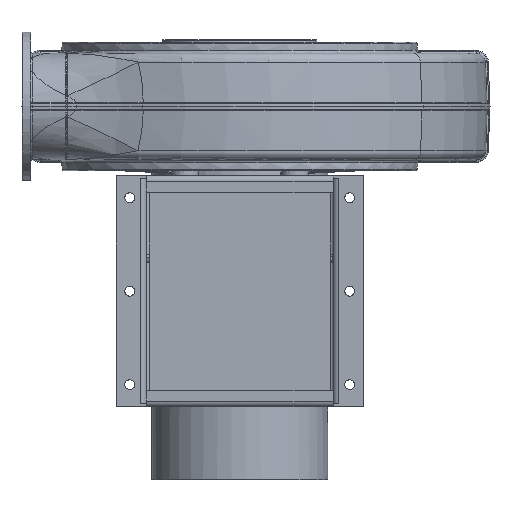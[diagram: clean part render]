
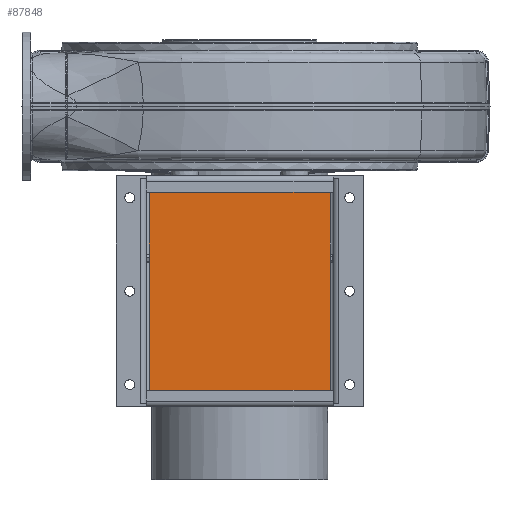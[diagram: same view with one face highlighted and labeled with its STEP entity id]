
A CAD part, front view. The second image highlights one B-rep face of the part: STEP entity #87848.
In plain terms, the highlighted planar face has unit normal (0, -1, 0).
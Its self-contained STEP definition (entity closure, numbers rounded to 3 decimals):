
#3362=PLANE('',#92284);
#13500=FACE_OUTER_BOUND('',#18978,.T.);
#18978=EDGE_LOOP('',(#81717,#81718,#81719,#81720,#81721,#81722,#81723,#81724,
#81725,#81726,#81727,#81728));
#28294=LINE('',#154044,#37658);
#28308=LINE('',#154080,#37672);
#28321=LINE('',#154117,#37685);
#28348=LINE('',#154179,#37712);
#28349=LINE('',#154181,#37713);
#28361=LINE('',#154212,#37725);
#28362=LINE('',#154214,#37726);
#28363=LINE('',#154216,#37727);
#28364=LINE('',#154218,#37728);
#28365=LINE('',#154220,#37729);
#28366=LINE('',#154222,#37730);
#28367=LINE('',#154223,#37731);
#37658=VECTOR('',#109916,10.);
#37672=VECTOR('',#109938,10.);
#37685=VECTOR('',#109965,10.);
#37712=VECTOR('',#110028,10.);
#37713=VECTOR('',#110031,10.);
#37725=VECTOR('',#110073,10.);
#37726=VECTOR('',#110074,10.);
#37727=VECTOR('',#110075,10.);
#37728=VECTOR('',#110076,10.);
#37729=VECTOR('',#110077,10.);
#37730=VECTOR('',#110078,10.);
#37731=VECTOR('',#110079,10.);
#46810=VERTEX_POINT('',#154041);
#46811=VERTEX_POINT('',#154043);
#46828=VERTEX_POINT('',#154077);
#46829=VERTEX_POINT('',#154079);
#46845=VERTEX_POINT('',#154114);
#46846=VERTEX_POINT('',#154116);
#46867=VERTEX_POINT('',#154211);
#46868=VERTEX_POINT('',#154213);
#46869=VERTEX_POINT('',#154215);
#46870=VERTEX_POINT('',#154217);
#46871=VERTEX_POINT('',#154219);
#46872=VERTEX_POINT('',#154221);
#58465=EDGE_CURVE('',#46810,#46811,#28294,.T.);
#58483=EDGE_CURVE('',#46828,#46829,#28308,.T.);
#58500=EDGE_CURVE('',#46846,#46845,#28321,.T.);
#58533=EDGE_CURVE('',#46845,#46811,#28348,.T.);
#58534=EDGE_CURVE('',#46828,#46846,#28349,.T.);
#58550=EDGE_CURVE('',#46810,#46867,#28361,.T.);
#58551=EDGE_CURVE('',#46867,#46868,#28362,.T.);
#58552=EDGE_CURVE('',#46868,#46869,#28363,.T.);
#58553=EDGE_CURVE('',#46869,#46870,#28364,.T.);
#58554=EDGE_CURVE('',#46870,#46871,#28365,.T.);
#58555=EDGE_CURVE('',#46871,#46872,#28366,.T.);
#58556=EDGE_CURVE('',#46829,#46872,#28367,.T.);
#81717=ORIENTED_EDGE('',*,*,#58534,.T.);
#81718=ORIENTED_EDGE('',*,*,#58500,.T.);
#81719=ORIENTED_EDGE('',*,*,#58533,.T.);
#81720=ORIENTED_EDGE('',*,*,#58465,.F.);
#81721=ORIENTED_EDGE('',*,*,#58550,.T.);
#81722=ORIENTED_EDGE('',*,*,#58551,.T.);
#81723=ORIENTED_EDGE('',*,*,#58552,.T.);
#81724=ORIENTED_EDGE('',*,*,#58553,.T.);
#81725=ORIENTED_EDGE('',*,*,#58554,.T.);
#81726=ORIENTED_EDGE('',*,*,#58555,.T.);
#81727=ORIENTED_EDGE('',*,*,#58556,.F.);
#81728=ORIENTED_EDGE('',*,*,#58483,.F.);
#87848=ADVANCED_FACE('',(#13500),#3362,.F.);
#92284=AXIS2_PLACEMENT_3D('',#154210,#110071,#110072);
#109916=DIRECTION('',(1.,0.,0.));
#109938=DIRECTION('',(1.,0.,0.));
#109965=DIRECTION('',(-1.,0.,0.));
#110028=DIRECTION('',(0.,0.,1.));
#110031=DIRECTION('',(0.,0.,-1.));
#110071=DIRECTION('center_axis',(0.,1.,0.));
#110072=DIRECTION('ref_axis',(0.,0.,
1.));
#110073=DIRECTION('',(0.,0.,-1.));
#110074=DIRECTION('',(1.,0.,0.));
#110075=DIRECTION('',(0.,0.,1.));
#110076=DIRECTION('',(1.,0.,0.));
#110077=DIRECTION('',(0.,0.,-1.));
#110078=DIRECTION('',(1.,0.,0.));
#110079=DIRECTION('',(0.,0.,-1.));
#154041=CARTESIAN_POINT('',(-165.,-165.,-126.));
#154043=CARTESIAN_POINT('',(-160.,-165.,-126.));
#154044=CARTESIAN_POINT('',(-582.619,-165.,-126.));
#154077=CARTESIAN_POINT('',(160.,-165.,-126.));
#154079=CARTESIAN_POINT('',(165.,-165.,-126.));
#154080=CARTESIAN_POINT('',(-582.619,-165.,-126.));
#154114=CARTESIAN_POINT('',(-160.,-165.,-131.));
#154116=CARTESIAN_POINT('',(160.,-165.,-131.));
#154117=CARTESIAN_POINT('',(4.,-165.,-131.));
#154179=CARTESIAN_POINT('',(-160.,-165.,-259.5));
#154181=CARTESIAN_POINT('',(160.,-165.,-259.5));
#154210=CARTESIAN_POINT('Origin',(108.,-165.,-393.));
#154211=CARTESIAN_POINT('',(-165.,-165.,-546.));
#154212=CARTESIAN_POINT('',(-165.,-165.,-336.));
#154213=CARTESIAN_POINT('',(-160.,-165.,-546.));
#154214=CARTESIAN_POINT('',(-582.619,-165.,-546.));
#154215=CARTESIAN_POINT('',(-160.,-165.,-541.));
#154216=CARTESIAN_POINT('',(-160.,-165.,-469.5));
#154217=CARTESIAN_POINT('',(160.,-165.,-541.));
#154218=CARTESIAN_POINT('',(54.,-165.,-541.));
#154219=CARTESIAN_POINT('',(160.,-165.,-546.));
#154220=CARTESIAN_POINT('',(160.,-165.,-469.5));
#154221=CARTESIAN_POINT('',(165.,-165.,-546.));
#154222=CARTESIAN_POINT('',(-582.619,-165.,-546.));
#154223=CARTESIAN_POINT('',(165.,-165.,-336.));
